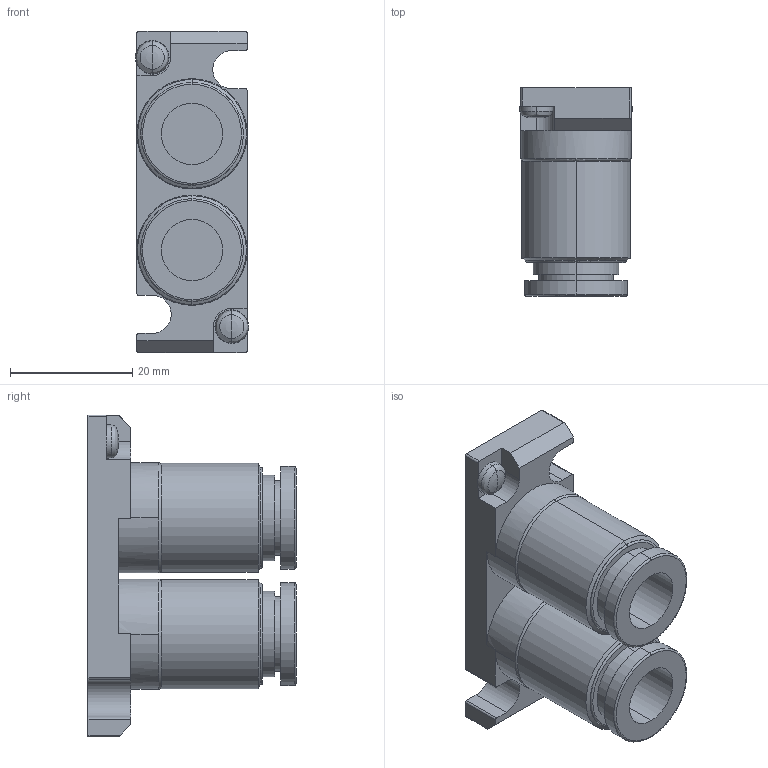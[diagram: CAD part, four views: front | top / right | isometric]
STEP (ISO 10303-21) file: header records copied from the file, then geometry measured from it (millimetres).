
FILE_DESCRIPTION( (''), '2;1');
FILE_NAME ('CVICAD02.3396.F15_Port-PJ6_21475.stp','2021-07-12T19:12:42',(''),(''),'spGate 12.6.6','','');
FILE_SCHEMA (('AUTOMOTIVE_DESIGN'));
Length unit declared in the file: millimetre
Bounding box: 18.48 x 34 x 52.6 mm (x, y, z)
Volume: 15243.2 mm3; surface area: 7527 mm2
Topology: 1 solids, 1 shells, 104 faces, 254 edges, 158 vertices
Faces by surface type: cylinder 40, plane 36, bspline 24, sphere 4
Entity records: 5411 total; most frequent: CARTESIAN_POINT 1112, ORIENTED_EDGE 500, DIRECTION 439, COLOUR_RGB 355, PRESENTATION_STYLE_ASSIGNMENT 355, STYLED_ITEM 355, EDGE_CURVE 250, DRAUGHTING_PRE_DEFINED_CURVE_FONT 250
